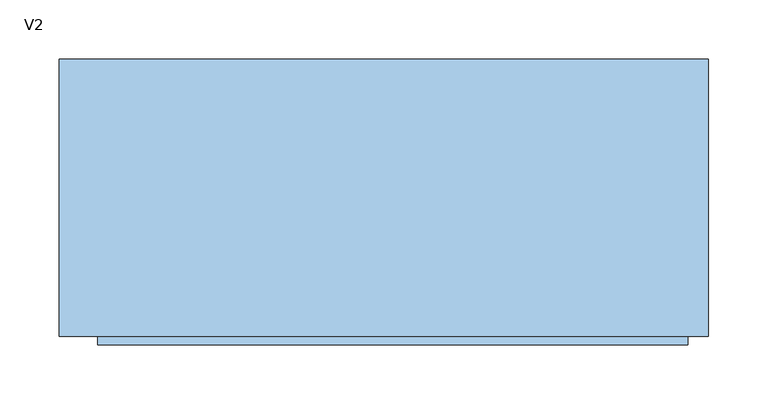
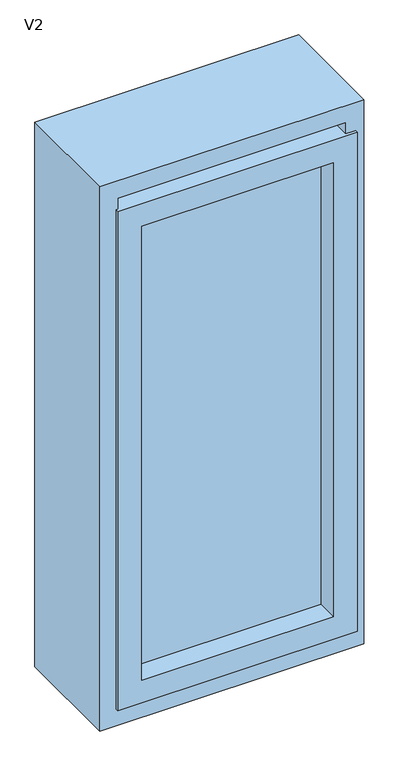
"""IFC4 building model written with IfcOpenShell, lengths in millimetres: window geometry, Ventana batiente horizontal V2 : V2."""

import ifcopenshell
import ifcopenshell.guid

model = None  # the IFC model being written
_history = None  # IfcOwnerHistory: only IFC2X3 demands one
_inside = {}  # id of a spatial element -> (the spatial element, [elements in it])
_under = {}  # id of a project, library or spatial element -> (it, [spatial elements below it])
_declared = {}  # id of a project -> (the project, [libraries it declares])
_typed = {}  # id of a type object -> (the type object, [elements of that type])
_made_of = {}  # id of a material, layer set ... -> (it, [elements and type objects made of it])


def new_model(schema):
    """Start an empty IFC model of exactly this schema.

    Asked for "IFC4X3", IfcOpenShell would pick the latest addendum, in which some entities
    have other attributes; the version numbers below select the first issue.
    IFC2X3 requires an IfcOwnerHistory on every rooted entity: one is made here for all.
    """
    global model, _history
    if schema == "IFC4X3":
        model = ifcopenshell.file(schema_version=(4, 3, 0, 0))
    else:
        model = ifcopenshell.file(schema=schema)
    _inside.clear()
    _under.clear()
    _declared.clear()
    _typed.clear()
    _made_of.clear()
    _history = None
    if model.schema == "IFC2X3":
        org = make("IfcOrganization", Name="unknown")
        user = make(
            "IfcPersonAndOrganization",
            ThePerson=make("IfcPerson", FamilyName="unknown"),
            TheOrganization=org,
        )
        app = make(
            "IfcApplication",
            ApplicationDeveloper=org,
            Version="unknown",
            ApplicationFullName="unknown",
            ApplicationIdentifier="unknown",
        )
        _history = make(
            "IfcOwnerHistory",
            OwningUser=user,
            OwningApplication=app,
            ChangeAction="ADDED",
            CreationDate=0,
        )
    return model


def make(cls, **values):
    """One entity of the class cls with the attributes given. An attribute that is None is left unset."""
    return model.create_entity(
        cls, **{name: value for name, value in values.items() if value is not None}
    )


def rooted(cls, **values):
    """An entity with a GlobalId (a new one), such as an element, a storey or a relation."""
    return make(cls, GlobalId=ifcopenshell.guid.new(), OwnerHistory=_history, **values)


def si_unit(unit_type, name, prefix=None):
    """IfcSIUnit, for example si_unit("LENGTHUNIT", "METRE", prefix="MILLI")."""
    return make("IfcSIUnit", UnitType=unit_type, Prefix=prefix, Name=name)


def assignment(units):
    """IfcUnitAssignment: the units of a project."""
    return None if units is None else make("IfcUnitAssignment", Units=units)


def point(xyz):
    """IfcCartesianPoint."""
    return None if xyz is None else make("IfcCartesianPoint", Coordinates=xyz)


def direction(xyz):
    """IfcDirection."""
    return None if xyz is None else make("IfcDirection", DirectionRatios=xyz)


def frame(location, z_axis=None, x_axis=None):
    """IfcAxis2Placement3D, a coordinate frame: its origin and axes. An axis left out is left unset."""
    return make(
        "IfcAxis2Placement3D",
        Location=point(location),
        Axis=direction(z_axis),
        RefDirection=direction(x_axis),
    )


def origin():
    """The frame at (0, 0, 0) with its axes left unset."""
    return frame((0.0, 0.0, 0.0))


def place(relative_to, where):
    """IfcLocalPlacement: puts the frame where relative to a parent placement (None: the world)."""
    return make(
        "IfcLocalPlacement", PlacementRelTo=relative_to, RelativePlacement=where
    )


def context(
    kind, dimensions, precision=None, world=None, true_north=None, identifier=None
):
    """IfcGeometricRepresentationContext, for example the 3D "Model" context."""
    return make(
        "IfcGeometricRepresentationContext",
        ContextIdentifier=identifier,
        ContextType=kind,
        CoordinateSpaceDimension=dimensions,
        Precision=precision,
        WorldCoordinateSystem=world,
        TrueNorth=true_north,
    )


def project(units=None, contexts=None):
    """IfcProject with its units and contexts."""
    return rooted(
        "IfcProject",
        Name="project",
        RepresentationContexts=contexts,
        UnitsInContext=assignment(units),
    )


def spatial(cls, under=None, at=None, **own):
    """A site, building, storey or space (cls), placed at a placement, below another one or the project."""
    s = rooted(cls, ObjectPlacement=at, **own)
    if under is not None:
        _under.setdefault(under.id(), (under, []))[1].append(s)
    return s


def polyline(points):
    """IfcPolyline through the points."""
    return make("IfcPolyline", Points=[point(p) for p in points])


def outline(outer, holes=None, kind="AREA"):
    """IfcArbitraryClosedProfileDef: a profile drawn as a closed curve; with holes, ...WithVoids."""
    if holes is None:
        return make("IfcArbitraryClosedProfileDef", ProfileType=kind, OuterCurve=outer)
    return make(
        "IfcArbitraryProfileDefWithVoids",
        ProfileType=kind,
        OuterCurve=outer,
        InnerCurves=holes,
    )


def extrude(swept, where, along, depth):
    """IfcExtrudedAreaSolid: the profile swept, set in the frame where, extruded along a direction by depth."""
    return make(
        "IfcExtrudedAreaSolid",
        SweptArea=swept,
        Position=where,
        ExtrudedDirection=direction(along),
        Depth=depth,
    )


def faces_of(points, faces, orient=None, outer=None):
    """IfcFace entities. A face is a list of loops; a loop is a list of indices into points, from 0.

    orient and outer hold one flag for each loop. By default every Orientation is true, the
    first loop of a face is its IfcFaceOuterBound and the others are IfcFaceBound.
    """
    made = []
    for i, loops in enumerate(faces):
        bounds = []
        for j, loop in enumerate(loops):
            is_outer = j == 0 if outer is None else outer[i][j]
            bounds.append(
                make(
                    "IfcFaceOuterBound" if is_outer else "IfcFaceBound",
                    Bound=make("IfcPolyLoop", Polygon=[points[k] for k in loop]),
                    Orientation=True if orient is None else orient[i][j],
                )
            )
        made.append(make("IfcFace", Bounds=bounds))
    return made


def faceted_brep(points, faces, orient=None, outer=None, voids=None):
    """IfcFacetedBrep: a solid bounded by flat faces; with voids (closed shells), ...WithVoids."""
    shared = [point(p) for p in points]
    hull = make("IfcClosedShell", CfsFaces=faces_of(shared, faces, orient, outer))
    if voids is None:
        return make("IfcFacetedBrep", Outer=hull)
    return make(
        "IfcFacetedBrepWithVoids",
        Outer=hull,
        Voids=[
            make(cls, CfsFaces=faces_of(shared, fs, o, b)) for cls, fs, o, b in voids
        ],
    )


def shape(context_of_items, identifier, shape_type, items):
    """IfcShapeRepresentation: the items that make up one representation, for example the "Body"."""
    return make(
        "IfcShapeRepresentation",
        ContextOfItems=context_of_items,
        RepresentationIdentifier=identifier,
        RepresentationType=shape_type,
        Items=items,
    )


def source(mapping_origin, context_of_items, identifier, shape_type, items):
    """IfcRepresentationMap: a shape defined once, which mapped items show again and again."""
    return make(
        "IfcRepresentationMap",
        MappingOrigin=mapping_origin,
        MappedRepresentation=shape(context_of_items, identifier, shape_type, items),
    )


def transform(
    local_origin,
    x_axis=None,
    y_axis=None,
    z_axis=None,
    scale=None,
    scale2=None,
    scale3=None,
    uniform=True,
):
    """IfcCartesianTransformationOperator3D, or its non-uniform kind. x_axis, y_axis, z_axis: its Axis1, 2, 3."""
    if uniform:
        return make(
            "IfcCartesianTransformationOperator3D",
            Axis1=direction(x_axis),
            Axis2=direction(y_axis),
            LocalOrigin=point(local_origin),
            Scale=scale,
            Axis3=direction(z_axis),
        )
    return make(
        "IfcCartesianTransformationOperator3DnonUniform",
        Axis1=direction(x_axis),
        Axis2=direction(y_axis),
        LocalOrigin=point(local_origin),
        Scale=scale,
        Axis3=direction(z_axis),
        Scale2=scale2,
        Scale3=scale3,
    )


def mapped(mapping_source, mapping_target):
    """IfcMappedItem: shows the shape of a source again, moved by a transform."""
    return make(
        "IfcMappedItem", MappingSource=mapping_source, MappingTarget=mapping_target
    )


def made_of(thing, what):
    """Note that an element or type object is made of a material, layer set ...; save() writes the relation."""
    if what is not None:
        _made_of.setdefault(what.id(), (what, []))[1].append(thing)
    return thing


def element(
    cls,
    number,
    at=None,
    inside=None,
    cuts=None,
    type_object=None,
    material=None,
    context=None,
    identifier="Body",
    shape_type=None,
    held_by="IfcProductDefinitionShape",
    body=None,
    shapes=None,
    **own,
):
    """One element of the class cls, such as IfcWall. Its Tag is "e" and its number.

    at: its placement. inside: the storey or other place that contains it. cuts: it is an
    opening in that element (IfcRelVoidsElement). A single representation is given by context,
    identifier, shape_type and body (its items); several are given by shapes. held_by: the class
    of the entity that holds the representations. save() writes the other relations.
    """
    e = rooted(cls, Tag="e%d" % number, ObjectPlacement=at, **own)
    if body is not None:
        shapes = [shape(context, identifier, shape_type, body)]
    if shapes is not None:
        e.Representation = make(held_by, Representations=shapes)
    if inside is not None:
        _inside.setdefault(inside.id(), (inside, []))[1].append(e)
    if cuts is not None:
        rooted(
            "IfcRelVoidsElement", RelatingBuildingElement=cuts, RelatedOpeningElement=e
        )
    if type_object is not None:
        _typed.setdefault(type_object.id(), (type_object, []))[1].append(e)
    return made_of(e, material)


def aggregate(whole, parts):
    """IfcRelAggregates: a whole, such as a stair, and the parts it consists of."""
    return rooted("IfcRelAggregates", RelatingObject=whole, RelatedObjects=parts)


def save(model, path):
    """Write the relations noted so far, then the file.

    IfcRelAggregates (storeys below a building ...), IfcRelContainedInSpatialStructure (elements
    in a storey), IfcRelDefinesByType, IfcRelAssociatesMaterial and IfcRelDeclares: one each for
    every whole, place, type object, material and project.
    """
    for whole, parts in _under.values():
        aggregate(whole, parts)
    for where, things in _inside.values():
        rooted(
            "IfcRelContainedInSpatialStructure",
            RelatedElements=things,
            RelatingStructure=where,
        )
    for kind, things in _typed.values():
        rooted("IfcRelDefinesByType", RelatedObjects=things, RelatingType=kind)
    for what, things in _made_of.values():
        rooted("IfcRelAssociatesMaterial", RelatedObjects=things, RelatingMaterial=what)
    for by, libraries in _declared.values():
        rooted("IfcRelDeclares", RelatingContext=by, RelatedDefinitions=libraries)
    model.write(path)


def v2_3362589a(model_context):
    return source(origin(), model_context, "Body", "SolidModel", [
        faceted_brep([(-244.7136171, 65.0, 1924.0), (-244.7136171, -75.0, 1924.0), (-244.7136171, -75.0, 800.0), (-244.7136171, 65.0, 800.0), (-282.7136171, -75.0, 762.0), (267.2863829, -75.0, 762.0), (267.2863829, -75.0, 1962.0), (-282.7136171, -75.0, 1962.0), (229.2863829, -75.0, 1924.0), (229.2863829, -75.0, 800.0), (229.2863829, 65.0, 800.0), (-263.7136171, 65.0, 1943.0), (248.2863829, 65.0, 1943.0), (248.2863829, 65.0, 781.0), (-263.7136171, 65.0, 781.0), (229.2863829, 65.0, 1924.0), (-263.7136171, 160.0, 1943.0), (-263.7136171, 160.0, 781.0), (248.2863829, 160.0, 781.0), (-282.7136171, 160.0, 1962.0), (267.2863829, 160.0, 1962.0), (267.2863829, 160.0, 762.0), (-282.7136171, 160.0, 762.0), (248.2863829, 160.0, 1943.0)], [[[0, 1, 2, 3]], [[4, 5, 6, 7], [1, 8, 9, 2]], [[3, 2, 9, 10]], [[11, 12, 13, 14], [3, 10, 15, 0]], [[16, 11, 14, 17]], [[17, 14, 13, 18]], [[19, 20, 21, 22], [17, 18, 23, 16]], [[7, 19, 22, 4]], [[4, 22, 21, 5]], [[10, 9, 8, 15]], [[18, 13, 12, 23]], [[5, 21, 20, 6]], [[15, 8, 1, 0]], [[23, 12, 11, 16]], [[6, 20, 19, 7]]]),
        extrude(outline(polyline([(200.0, -37.0), (-200.0, -37.0), (-200.0, -32.0), (200.0, -32.0), (200.0, -37.0)])), frame((0.0, 0.0, 850.0), z_axis=(0.0, 0.0, 1.0), x_axis=(1.0, 0.0, 0.0)), (0.0, 0.0, 1.0), 1000.0),
        extrude(outline(polyline([(1900.0, -250.0), (800.0, -250.0), (800.0, 250.0), (1900.0, 250.0), (1900.0, -250.0)]), holes=[polyline([(1850.0, -200.0), (1850.0, 200.0), (850.0, 200.0), (850.0, -200.0), (1850.0, -200.0)])]), frame((0.0, -82.0, 0.0), z_axis=(0.0, 1.0, 0.0), x_axis=(0.0, 0.0, 1.0)), (0.0, 0.0, 1.0), 100.0),
    ])


if __name__ == "__main__":
    model = new_model("IFC4")
    model_context = context("Model", 3, world=origin())
    ifc_project = project(units=[si_unit("LENGTHUNIT", "METRE", prefix="MILLI")], contexts=[model_context])
    site = spatial("IfcSite", under=ifc_project)
    building = spatial("IfcBuilding", under=site)
    placement = place(None, origin())
    v2_shape = v2_3362589a(model_context)
    element("IfcWindow", 1, ObjectType="Ventana batiente horizontal V2 : V2", at=placement, inside=building, context=model_context, shape_type="MappedRepresentation", body=[
        mapped(v2_shape, transform((0.0, 0.0, 0.0), x_axis=(1.0, 0.0, 0.0), y_axis=(0.0, 1.0, 0.0), z_axis=(0.0, 0.0, 1.0))),
    ])
    save(model, "model.ifc")
